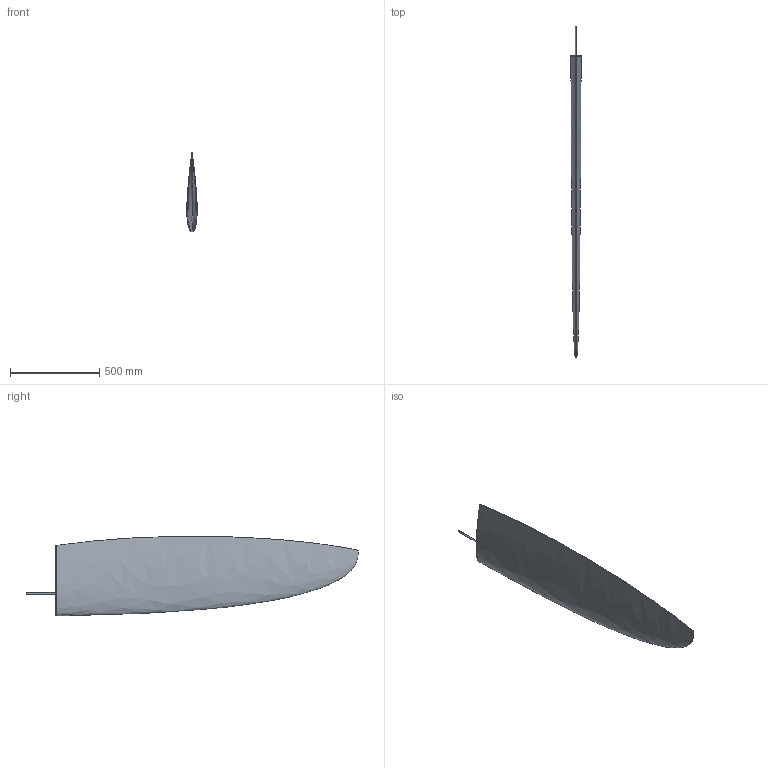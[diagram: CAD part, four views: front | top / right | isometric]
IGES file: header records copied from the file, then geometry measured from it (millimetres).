
Start section: SolidWorks IGES file using analytic representation for surfaces
Global section: file name: X:\Jefa Rudder\Rorlejer og rordele\Jefa-rudder-cad-lib\rudder_blades\RUD33R\Rudderblade RUD33R.IGS; native system: SolidWorks 2012; preprocessor: SolidWorks 2012; author: Armin Geisler; date: 121130.120958; units: millimetre
Bounding box: 57.82 x 1854.99 x 444.35 mm (x, y, z)
Surface area: 1266420.4 mm2 (no closed solid volume)
Topology: 0 solids, 0 shells, 10 faces, 278 edges, 278 vertices
Faces by surface type: bspline 8, revolution 2
